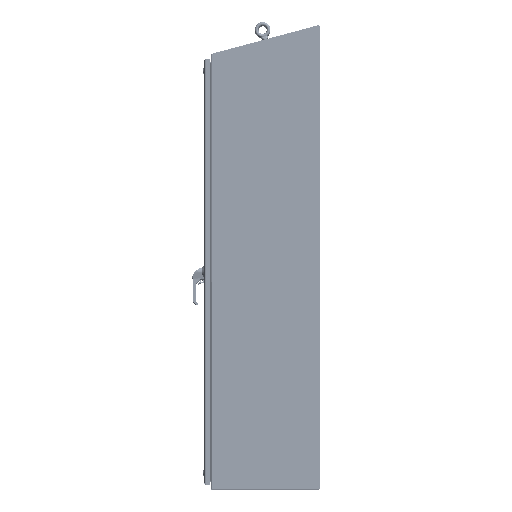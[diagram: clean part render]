
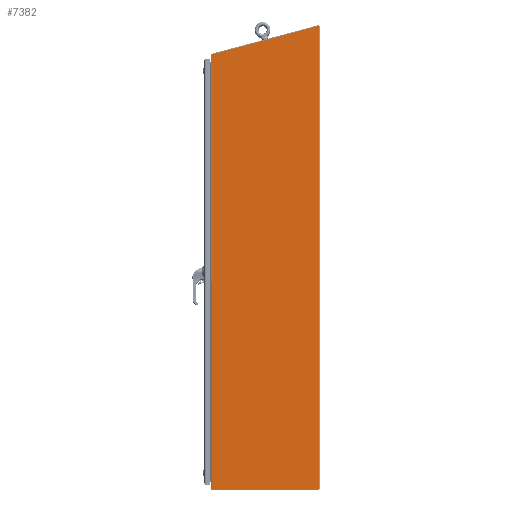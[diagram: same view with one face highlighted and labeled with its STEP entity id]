
A CAD part, top view. The second image highlights one B-rep face of the part: STEP entity #7382.
In plain terms, the highlighted planar face has unit normal (0, 0, 1) as drawn and (-1, 0, 0) by its records, which use the part's own axes.
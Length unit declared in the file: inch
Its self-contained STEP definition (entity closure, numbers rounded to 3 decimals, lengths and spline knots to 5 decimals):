
#6100=CARTESIAN_POINT('',(-3.6355,15.72925,-76.5664));
#6101=DIRECTION('',(-1.,0.,0.));
#6102=DIRECTION('',(0.,1.,0.));
#6103=AXIS2_PLACEMENT_3D('',#6100,#6101,#6102);
#6108=DIRECTION('',(0.,0.,-1.));
#6109=VECTOR('',#6108,76.5039);
#6110=CARTESIAN_POINT('',(-3.6355,15.7605,-0.0625));
#6111=LINE('',#6110,#6109);
#6115=CARTESIAN_POINT('',(-3.6355,15.698,-0.0625));
#6116=DIRECTION('',(-1.,0.,0.));
#6117=DIRECTION('',(0.,0.,1.));
#6118=AXIS2_PLACEMENT_3D('',#6115,#6116,#6117);
#6123=DIRECTION('',(0.,0.966,-0.259));
#6124=VECTOR('',#6123,18.28522);
#6125=CARTESIAN_POINT('',(-3.6355,-1.941,-71.86402));
#6126=LINE('',#6125,#6124);
#6158=CARTESIAN_POINT('',(-3.6355,-1.941,-71.86402));
#6163=DIRECTION('',(0.,0.,-1.));
#6164=VECTOR('',#6163,71.86402);
#6165=CARTESIAN_POINT('',(-3.6355,-1.941,0.));
#6166=LINE('',#6165,#6164);
#6214=DIRECTION('',(0.,-1.,0.));
#6215=VECTOR('',#6214,17.639);
#6216=CARTESIAN_POINT('',(-3.6355,15.698,0.));
#6217=LINE('',#6216,#6215);
#7188=CARTESIAN_POINT('',(-3.6355,-1.941,0.));
#7190=VERTEX_POINT('',#7188);
#7299=CARTESIAN_POINT('',(-3.6355,15.698,0.));
#7300=CARTESIAN_POINT('',(-3.6355,15.7605,-0.0625));
#7301=VERTEX_POINT('',#7299);
#7302=VERTEX_POINT('',#7300);
#7308=VERTEX_POINT('',#6158);
#7315=CARTESIAN_POINT('',(-3.6355,15.7605,-76.5664));
#7316=CARTESIAN_POINT('',(-3.6355,15.72117,-76.59658));
#7317=VERTEX_POINT('',#7315);
#7318=VERTEX_POINT('',#7316);
#7363=CARTESIAN_POINT('',(-3.6355,15.7605,0.));
#7364=DIRECTION('',(-1.,0.,0.));
#7365=DIRECTION('',(0.,-1.,0.));
#7366=AXIS2_PLACEMENT_3D('',#7363,#7364,#7365);
#7367=PLANE('',#7366);
#7369=ORIENTED_EDGE('',*,*,#7368,.F.);
#7371=ORIENTED_EDGE('',*,*,#7370,.F.);
#7373=ORIENTED_EDGE('',*,*,#7372,.F.);
#7375=ORIENTED_EDGE('',*,*,#7374,.T.);
#7377=ORIENTED_EDGE('',*,*,#7376,.T.);
#7379=ORIENTED_EDGE('',*,*,#7378,.T.);
#7380=EDGE_LOOP('',(#7369,#7371,#7373,#7375,#7377,#7379));
#7381=FACE_OUTER_BOUND('',#7380,.F.);
#6104=CIRCLE('',#6103,0.03125);
#6119=CIRCLE('',#6118,0.0625);
#7368=EDGE_CURVE('',#7317,#7318,#6104,.T.);
#7370=EDGE_CURVE('',#7302,#7317,#6111,.T.);
#7372=EDGE_CURVE('',#7301,#7302,#6119,.T.);
#7374=EDGE_CURVE('',#7301,#7190,#6217,.T.);
#7376=EDGE_CURVE('',#7190,#7308,#6166,.T.);
#7378=EDGE_CURVE('',#7308,#7318,#6126,.T.);
#7382=ADVANCED_FACE('',(#7381),#7367,.T.);
